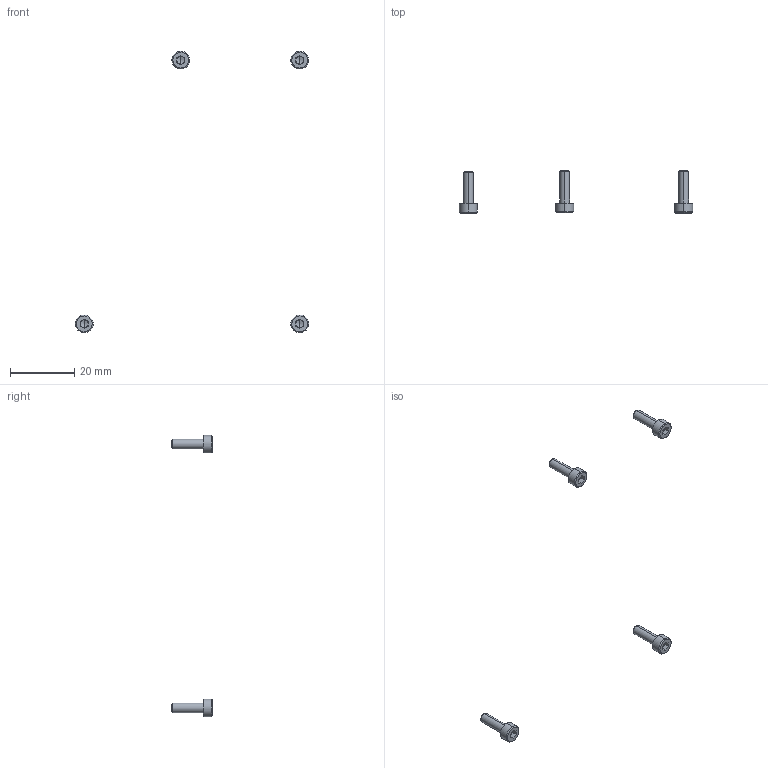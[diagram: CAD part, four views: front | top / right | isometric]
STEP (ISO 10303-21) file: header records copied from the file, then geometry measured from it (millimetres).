
FILE_DESCRIPTION(/* description */ (''),/* implementation_level */ '2;1');
FILE_NAME(/* name */ '1.frame-bottom#1.6#CB3-10',/* time_stamp */ '2014-12-01T20:11:23+01:00',/* author */ (''),/* organization */ (''),/* preprocessor_version */ 'ST-DEVELOPER v14',/* originating_system */ '',/* authorisation */ '');
FILE_SCHEMA (('AUTOMOTIVE_DESIGN'));
Length unit declared in the file: millimetre
Products named in the file (2): Document; screw DIN912-like, M3x10
Assembly tree (4 placements, depth 2):
  Document
    screw DIN912-like, M3x10  x4
Bounding box: 72.5 x 13 x 87.5 mm (x, y, z)
Volume: 529.8 mm3; surface area: 807.4 mm2
Topology: 4 solids, 4 shells, 100 faces, 224 edges, 132 vertices
Faces by surface type: plane 60, bspline 40
Entity records: 1429 total; most frequent: CARTESIAN_POINT 635, B_SPLINE_CURVE_WITH_KNOTS 126, ORIENTED_EDGE 108, PCURVE 108, DEFINITIONAL_REPRESENTATION 108, SURFACE_CURVE 54, EDGE_CURVE 54, VERTEX_POINT 33
